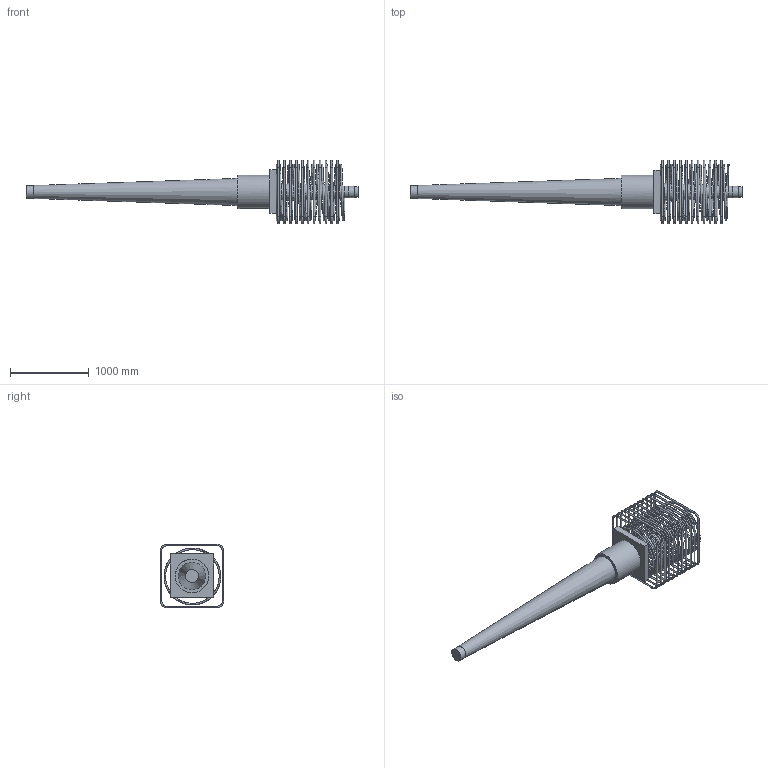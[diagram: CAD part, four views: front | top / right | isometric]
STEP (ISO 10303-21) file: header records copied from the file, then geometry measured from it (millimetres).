
FILE_DESCRIPTION(/* description */ (''),/* implementation_level */ '2;1');
FILE_NAME(/* name */ 'Z:\04 Publications\05 Give-out\BBR\6_3D_Models\BBR VT CONA CMI\BBR VT CONA CMI SP\04806\BBR VT CONA CMI SP 4806_CS-34,28_Coupler H Assembly_CS-34,28.stp',/* time_stamp */ '2017-05-10T09:13:01+02:00',/* author */ ('IP'),/* organization */ (''),/* preprocessor_version */ 'ST-DEVELOPER v16.1',/* originating_system */ 'Autodesk Inventor 2016',/* authorisation */ '');
FILE_SCHEMA (('AUTOMOTIVE_DESIGN { 1 0 10303 214 3 1 1 }'));
Products named in the file (1): BBR VT CONA CMI SP 4806_CS-34,28_Coupler H Assembly_CS-34,28
Bounding box: 4215.05 x 810 x 810 mm (x, y, z)
Volume: 271392603.4 mm3; surface area: 8115317.1 mm2
Topology: 13 solids, 13 shells, 824 faces, 2158 edges, 1406 vertices
Faces by surface type: bspline 395, plane 260, cylinder 117, torus 50, cone 2
Full cylindrical faces by diameter (mm): 20 x44, 139 x1, 149 x1, 159 x1, 165 x1, 169 x1, 179 x1, 425 x1
Entity records: 41091 total; most frequent: CARTESIAN_POINT 23404, ORIENTED_EDGE 4112, DIRECTION 2467, EDGE_CURVE 2053, VERTEX_POINT 1404, EDGE_LOOP 1000, LINE 915, VECTOR 915
